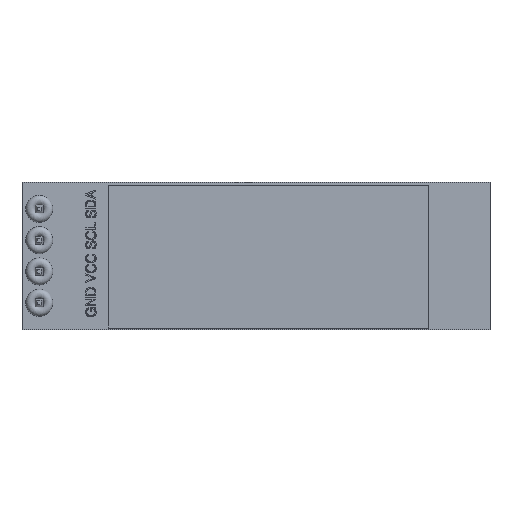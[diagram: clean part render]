
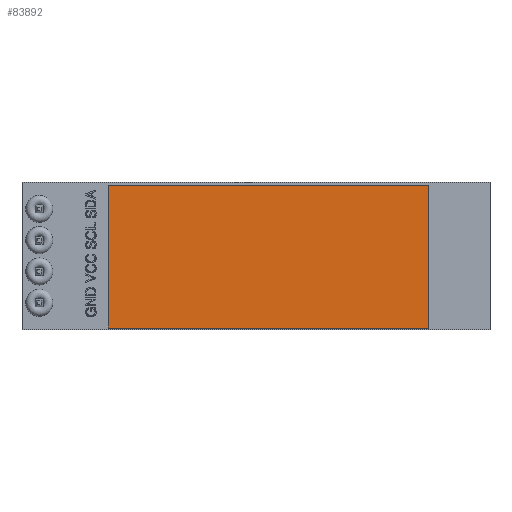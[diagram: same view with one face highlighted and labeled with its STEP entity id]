
A CAD part, top view. The second image highlights one B-rep face of the part: STEP entity #83892.
In plain terms, the highlighted planar face has unit normal (0, 0, 1).
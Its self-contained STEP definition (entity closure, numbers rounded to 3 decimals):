
#83578 = VERTEX_POINT('',#83579);
#83579 = CARTESIAN_POINT('',(0.,0.,1.));
#83586 = PLANE('',#83587);
#83587 = AXIS2_PLACEMENT_3D('',#83588,#83589,#83590);
#83588 = CARTESIAN_POINT('',(0.,0.,0.));
#83589 = DIRECTION('',(1.,0.,0.));
#83590 = DIRECTION('',(0.,0.,1.));
#83598 = PLANE('',#83599);
#83599 = AXIS2_PLACEMENT_3D('',#83600,#83601,#83602);
#83600 = CARTESIAN_POINT('',(0.,0.,0.));
#83601 = DIRECTION('',(0.,1.,0.));
#83602 = DIRECTION('',(0.,0.,1.));
#83639 = VERTEX_POINT('',#83640);
#83640 = CARTESIAN_POINT('',(0.,11.6,1.));
#83654 = PLANE('',#83655);
#83655 = AXIS2_PLACEMENT_3D('',#83656,#83657,#83658);
#83656 = CARTESIAN_POINT('',(0.,11.6,0.));
#83657 = DIRECTION('',(0.,1.,0.));
#83658 = DIRECTION('',(0.,0.,1.));
#83666 = EDGE_CURVE('',#83578,#83639,#83667,.T.);
#83667 = SURFACE_CURVE('',#83668,(#83672,#83679),.PCURVE_S1.);
#83668 = LINE('',#83669,#83670);
#83669 = CARTESIAN_POINT('',(0.,0.,1.));
#83670 = VECTOR('',#83671,1.);
#83671 = DIRECTION('',(0.,1.,0.));
#83672 = PCURVE('',#83586,#83673);
#83673 = DEFINITIONAL_REPRESENTATION('',(#83674),#83678);
#83674 = LINE('',#83675,#83676);
#83675 = CARTESIAN_POINT('',(1.,0.));
#83676 = VECTOR('',#83677,1.);
#83677 = DIRECTION('',(0.,-1.));
#83678 = ( GEOMETRIC_REPRESENTATION_CONTEXT(2) 
PARAMETRIC_REPRESENTATION_CONTEXT() REPRESENTATION_CONTEXT('2D SPACE',''
  ) );
#83679 = PCURVE('',#83680,#83685);
#83680 = PLANE('',#83681);
#83681 = AXIS2_PLACEMENT_3D('',#83682,#83683,#83684);
#83682 = CARTESIAN_POINT('',(0.,0.,1.));
#83683 = DIRECTION('',(0.,0.,1.));
#83684 = DIRECTION('',(1.,0.,0.));
#83685 = DEFINITIONAL_REPRESENTATION('',(#83686),#83690);
#83686 = LINE('',#83687,#83688);
#83687 = CARTESIAN_POINT('',(0.,0.));
#83688 = VECTOR('',#83689,1.);
#83689 = DIRECTION('',(0.,1.));
#83690 = ( GEOMETRIC_REPRESENTATION_CONTEXT(2) 
PARAMETRIC_REPRESENTATION_CONTEXT() REPRESENTATION_CONTEXT('2D SPACE',''
  ) );
#83698 = VERTEX_POINT('',#83699);
#83699 = CARTESIAN_POINT('',(26.,0.,1.));
#83706 = PLANE('',#83707);
#83707 = AXIS2_PLACEMENT_3D('',#83708,#83709,#83710);
#83708 = CARTESIAN_POINT('',(26.,0.,0.));
#83709 = DIRECTION('',(1.,0.,0.));
#83710 = DIRECTION('',(0.,0.,1.));
#83749 = VERTEX_POINT('',#83750);
#83750 = CARTESIAN_POINT('',(26.,11.6,1.));
#83771 = EDGE_CURVE('',#83698,#83749,#83772,.T.);
#83772 = SURFACE_CURVE('',#83773,(#83777,#83784),.PCURVE_S1.);
#83773 = LINE('',#83774,#83775);
#83774 = CARTESIAN_POINT('',(26.,0.,1.));
#83775 = VECTOR('',#83776,1.);
#83776 = DIRECTION('',(0.,1.,0.));
#83777 = PCURVE('',#83706,#83778);
#83778 = DEFINITIONAL_REPRESENTATION('',(#83779),#83783);
#83779 = LINE('',#83780,#83781);
#83780 = CARTESIAN_POINT('',(1.,0.));
#83781 = VECTOR('',#83782,1.);
#83782 = DIRECTION('',(0.,-1.));
#83783 = ( GEOMETRIC_REPRESENTATION_CONTEXT(2) 
PARAMETRIC_REPRESENTATION_CONTEXT() REPRESENTATION_CONTEXT('2D SPACE',''
  ) );
#83784 = PCURVE('',#83680,#83785);
#83785 = DEFINITIONAL_REPRESENTATION('',(#83786),#83790);
#83786 = LINE('',#83787,#83788);
#83787 = CARTESIAN_POINT('',(26.,0.));
#83788 = VECTOR('',#83789,1.);
#83789 = DIRECTION('',(0.,1.));
#83790 = ( GEOMETRIC_REPRESENTATION_CONTEXT(2) 
PARAMETRIC_REPRESENTATION_CONTEXT() REPRESENTATION_CONTEXT('2D SPACE',''
  ) );
#83817 = EDGE_CURVE('',#83578,#83698,#83818,.T.);
#83818 = SURFACE_CURVE('',#83819,(#83823,#83830),.PCURVE_S1.);
#83819 = LINE('',#83820,#83821);
#83820 = CARTESIAN_POINT('',(0.,0.,1.));
#83821 = VECTOR('',#83822,1.);
#83822 = DIRECTION('',(1.,0.,0.));
#83823 = PCURVE('',#83598,#83824);
#83824 = DEFINITIONAL_REPRESENTATION('',(#83825),#83829);
#83825 = LINE('',#83826,#83827);
#83826 = CARTESIAN_POINT('',(1.,0.));
#83827 = VECTOR('',#83828,1.);
#83828 = DIRECTION('',(0.,1.));
#83829 = ( GEOMETRIC_REPRESENTATION_CONTEXT(2) 
PARAMETRIC_REPRESENTATION_CONTEXT() REPRESENTATION_CONTEXT('2D SPACE',''
  ) );
#83830 = PCURVE('',#83680,#83831);
#83831 = DEFINITIONAL_REPRESENTATION('',(#83832),#83836);
#83832 = LINE('',#83833,#83834);
#83833 = CARTESIAN_POINT('',(0.,0.));
#83834 = VECTOR('',#83835,1.);
#83835 = DIRECTION('',(1.,0.));
#83836 = ( GEOMETRIC_REPRESENTATION_CONTEXT(2) 
PARAMETRIC_REPRESENTATION_CONTEXT() REPRESENTATION_CONTEXT('2D SPACE',''
  ) );
#83864 = EDGE_CURVE('',#83639,#83749,#83865,.T.);
#83865 = SURFACE_CURVE('',#83866,(#83870,#83877),.PCURVE_S1.);
#83866 = LINE('',#83867,#83868);
#83867 = CARTESIAN_POINT('',(0.,11.6,1.));
#83868 = VECTOR('',#83869,1.);
#83869 = DIRECTION('',(1.,0.,0.));
#83870 = PCURVE('',#83654,#83871);
#83871 = DEFINITIONAL_REPRESENTATION('',(#83872),#83876);
#83872 = LINE('',#83873,#83874);
#83873 = CARTESIAN_POINT('',(1.,0.));
#83874 = VECTOR('',#83875,1.);
#83875 = DIRECTION('',(0.,1.));
#83876 = ( GEOMETRIC_REPRESENTATION_CONTEXT(2) 
PARAMETRIC_REPRESENTATION_CONTEXT() REPRESENTATION_CONTEXT('2D SPACE',''
  ) );
#83877 = PCURVE('',#83680,#83878);
#83878 = DEFINITIONAL_REPRESENTATION('',(#83879),#83883);
#83879 = LINE('',#83880,#83881);
#83880 = CARTESIAN_POINT('',(0.,11.6));
#83881 = VECTOR('',#83882,1.);
#83882 = DIRECTION('',(1.,0.));
#83883 = ( GEOMETRIC_REPRESENTATION_CONTEXT(2) 
PARAMETRIC_REPRESENTATION_CONTEXT() REPRESENTATION_CONTEXT('2D SPACE',''
  ) );
#83892 = ADVANCED_FACE('',(#83893),#83680,.T.);
#83893 = FACE_BOUND('',#83894,.T.);
#83894 = EDGE_LOOP('',(#83895,#83896,#83897,#83898));
#83895 = ORIENTED_EDGE('',*,*,#83666,.F.);
#83896 = ORIENTED_EDGE('',*,*,#83817,.T.);
#83897 = ORIENTED_EDGE('',*,*,#83771,.T.);
#83898 = ORIENTED_EDGE('',*,*,#83864,.F.);
